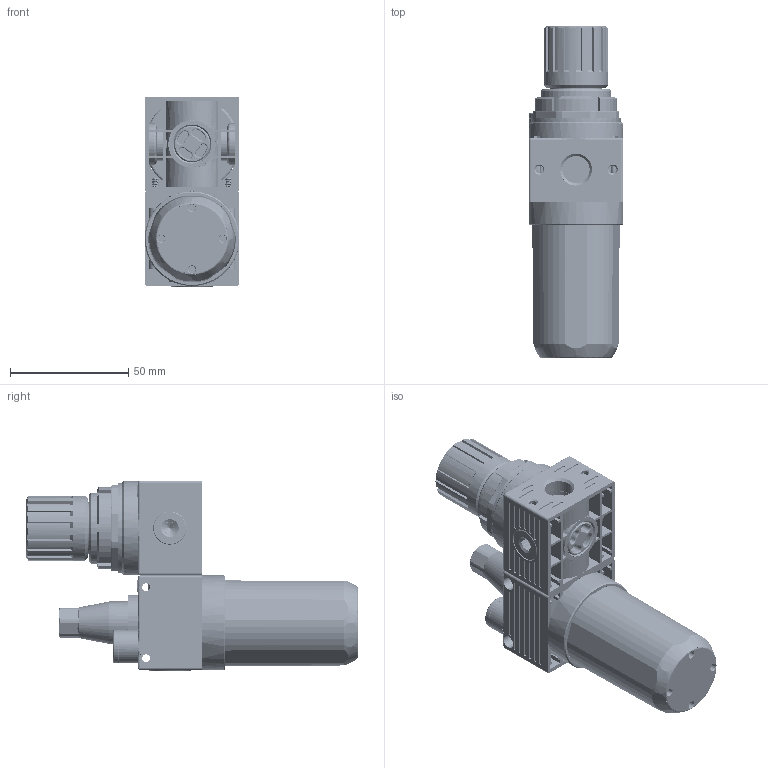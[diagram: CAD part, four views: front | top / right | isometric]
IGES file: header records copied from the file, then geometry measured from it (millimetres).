
Start section: SolidWorks IGES file using analytic representation for surfaces
Global section: file name: K:\Disegni Esecutivi\Trattamento Aria\Assiemi_FRL\FRL Mini\T100mini\T100mini_igs\T100003231100A.IGS; native system: SolidWorks 2011; preprocessor: SolidWorks 2011; author: cad05; date: 120215.175722; units: millimetre
Bounding box: 40 x 140.2 x 80.5 mm (x, y, z)
Surface area: 64285 mm2 (no closed solid volume)
Topology: 0 solids, 0 shells, 2416 faces, 28900 edges, 28862 vertices
Faces by surface type: bspline 1270, revolution 1146
